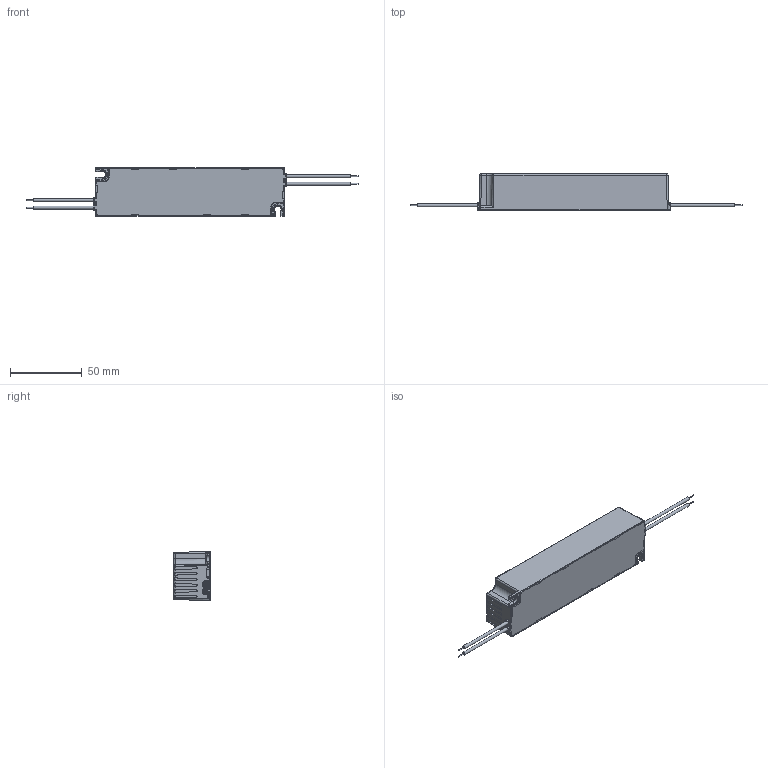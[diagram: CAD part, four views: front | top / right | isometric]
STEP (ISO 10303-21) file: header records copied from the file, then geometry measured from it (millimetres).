
FILE_DESCRIPTION (( 'STEP AP214' ), '1' );
FILE_NAME ('ass-6-7.STEP', '2021-02-09T07:36:37', ( '' ), ( '' ), 'SwSTEP 2.0', 'SolidWorks 2016', '' );
FILE_SCHEMA (( 'AUTOMOTIVE_DESIGN' ));
Length unit declared in the file: millimetre
Products named in the file (7): Cover; base0803; wire-2; ass-6-7; wire-1; wire-3; WIRE-4
Assembly tree (6 placements, depth 2):
  ass-6-7
    Cover
    WIRE-4
    base0803
    wire-2
    wire-3
    wire-1
Bounding box: 231.57 x 25.4 x 33.99 mm (x, y, z)
Volume: 23791.8 mm3; surface area: 35410.5 mm2
Topology: 6 solids, 6 shells, 622 faces, 1686 edges, 1081 vertices
Faces by surface type: plane 378, cylinder 190, bspline 26, sphere 20, torus 8
Full cylindrical faces by diameter (mm): 0.8 x4, 2.2 x4
Entity records: 20253 total; most frequent: CARTESIAN_POINT 5104, ORIENTED_EDGE 3310, DIRECTION 2819, EDGE_CURVE 1655, LINE 1185, VECTOR 1185, VERTEX_POINT 1070, AXIS2_PLACEMENT_3D 817
